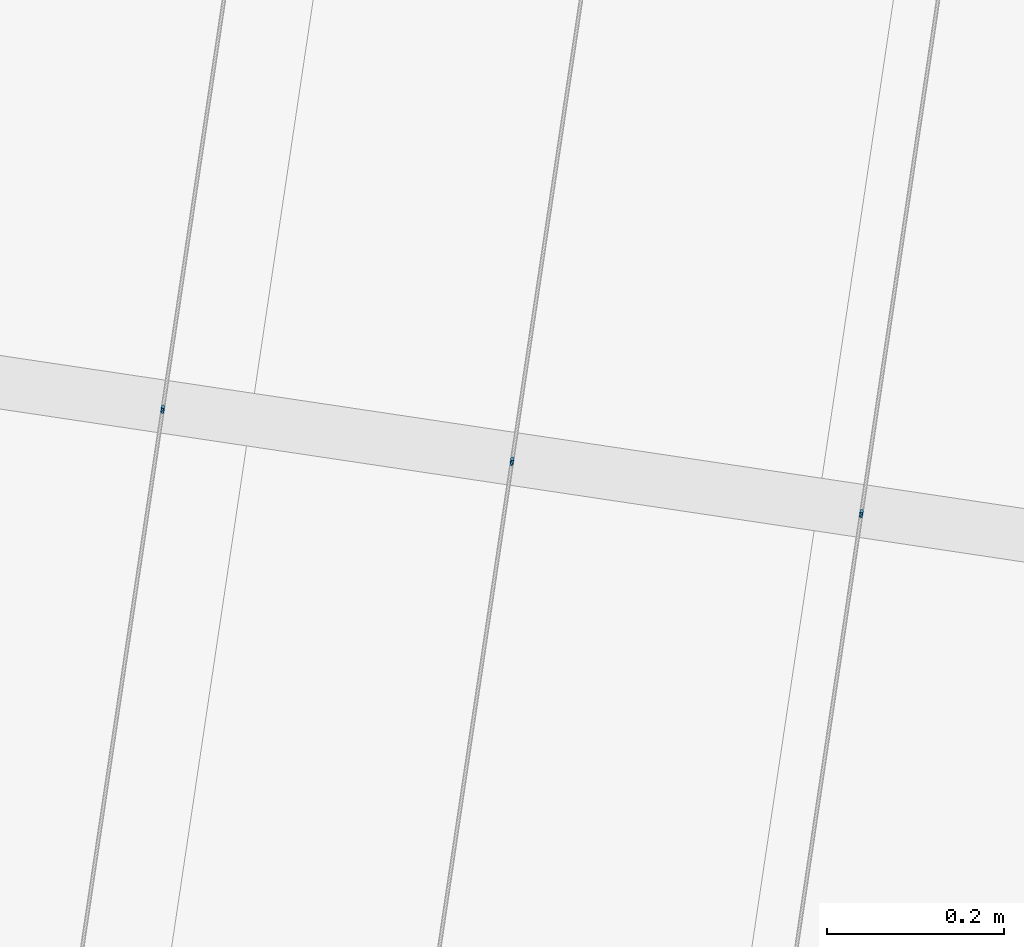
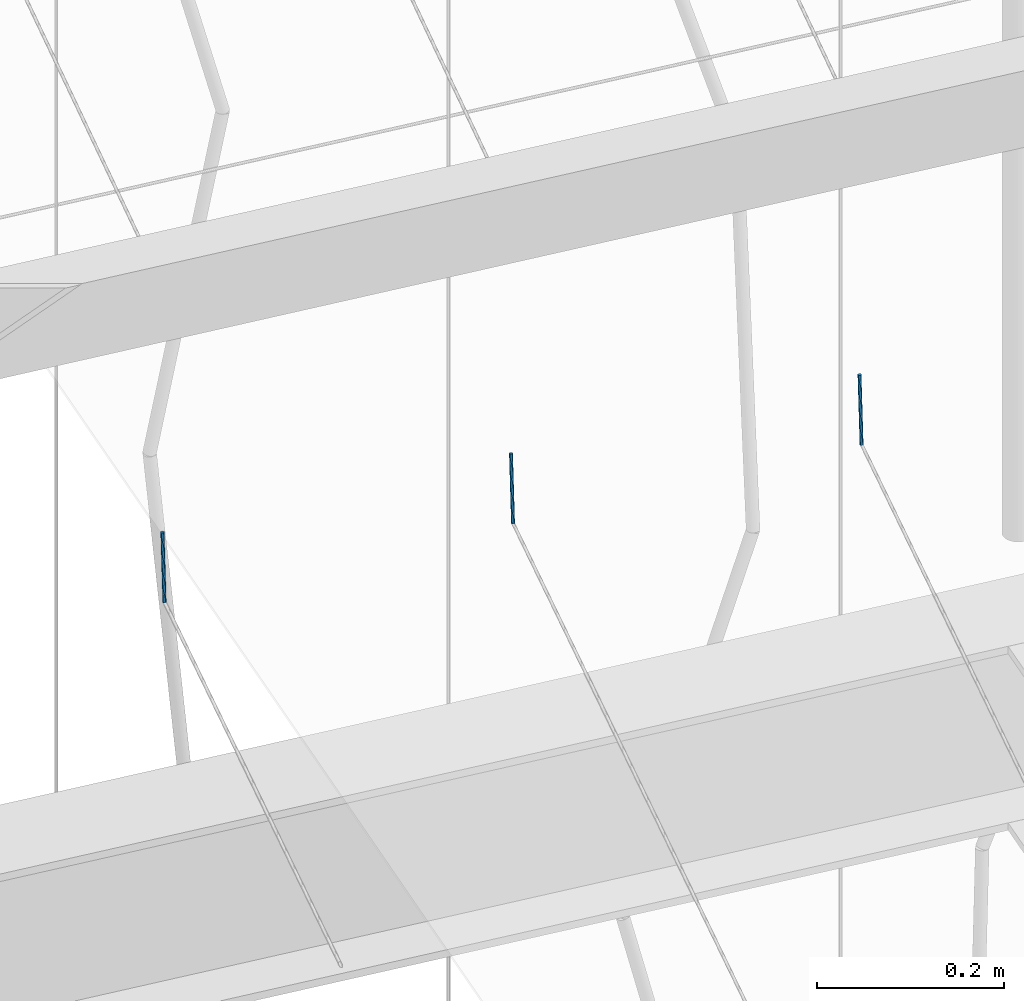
# One storey, part 126 of 142: 3 members, 1 element without a shape of its own.
"""IFC4 building model written with IfcOpenShell, lengths in metres."""

from ifc_helpers import new_model, si_unit, direction, frame, origin_with_axes, place, context, subcontext, project, spatial, circle, extrude, material, material_profile, profile_set, profile_usage, type_object, element, aggregate, save


model = new_model("IFC4")

# Units and contexts
model_context = context("Model", 3, precision=1e-05, world=origin_with_axes(), true_north=direction((0.0, 1.0)))
body_context = subcontext(model_context, "Body", "Model", "MODEL_VIEW")
ifc_project = project(units=[si_unit("VOLUMEUNIT", "CUBIC_METRE"), si_unit("LENGTHUNIT", "METRE"), si_unit("AREAUNIT", "SQUARE_METRE")], contexts=[model_context])

# Site, building, storey
site_placement = place(None, origin_with_axes())
site = spatial("IfcSite", under=ifc_project, at=site_placement, Name="Lares · Rua das Mercês · artigo 4771")
building_placement = place(site_placement, frame((12.0, 10.2, 13.9), z_axis=(0.0, 0.0, 1.0), x_axis=(0.989015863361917, -0.147809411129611, 0.0)))
building = spatial("IfcBuilding", under=site, at=building_placement, Name="Casa Sobreposta")
storey_placement = place(building_placement, origin_with_axes())
storey = spatial("IfcBuildingStorey", under=building, at=storey_placement, Name="00 · Habitação e estacionamento", Elevation=13.9)

# Assembly, members
assembly_placement = place(storey_placement, origin_with_axes())
assembly = element("IfcElementAssembly", 1, at=assembly_placement, inside=storey, Name="Pérgola · prolongamento da estufa 6 m", ObjectType="PERGOLA_GREENHOUSE_EXTENSION", PredefinedType="USERDEFINED")
ifc_material = material(Name="Aço galvanizado / Stahl verzinkt", Category="steel")
ifc_material_profile = material_profile(ifc_material, circle(Radius=0.002))
ifc_profile_set = profile_set([ifc_material_profile], Name="D0.004")
ifc_profile_usage_1 = profile_usage(ifc_profile_set)
member_type = type_object("IfcMemberType", Name="D0.004 / galvanized", PredefinedType="NOTDEFINED", material=ifc_profile_set)
member_1_placement = place(assembly_placement, frame((-4.2, 1.21440957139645, 7.21329402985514), z_axis=(0.0, 0.0686229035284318, 0.997642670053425), x_axis=(1.0, 0.0, 0.0)))
member_1 = element("IfcMember", 2, at=member_1_placement, type_object=member_type, material=ifc_profile_usage_1, Name="Pérgola · fio para trepadeiras", context=body_context, shape_type="SweptSolid", body=[
    extrude(circle(Radius=0.002), origin_with_axes(), (0.0, 0.0, 1.0), 0.0875893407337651),
])
ifc_profile_usage_2 = profile_usage(ifc_profile_set)
member_2_placement = place(assembly_placement, frame((-3.8, 1.21440957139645, 7.21329402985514), z_axis=(0.0, 0.0686229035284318, 0.997642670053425), x_axis=(1.0, 0.0, 0.0)))
member_2 = element("IfcMember", 3, at=member_2_placement, type_object=member_type, material=ifc_profile_usage_2, Name="Pérgola · fio para trepadeiras", context=body_context, shape_type="SweptSolid", body=[
    extrude(circle(Radius=0.002), origin_with_axes(), (0.0, 0.0, 1.0), 0.0875893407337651),
])
ifc_profile_usage_3 = profile_usage(ifc_profile_set)
member_3_placement = place(assembly_placement, frame((-3.4, 1.21440957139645, 7.21329402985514), z_axis=(0.0, 0.0686229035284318, 0.997642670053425), x_axis=(1.0, 0.0, 0.0)))
member_3 = element("IfcMember", 4, at=member_3_placement, type_object=member_type, material=ifc_profile_usage_3, Name="Pérgola · fio para trepadeiras", context=body_context, shape_type="SweptSolid", body=[
    extrude(circle(Radius=0.002), origin_with_axes(), (0.0, 0.0, 1.0), 0.0875893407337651),
])
aggregate(assembly, [member_1, member_2, member_3])

save(model, "model.ifc")
